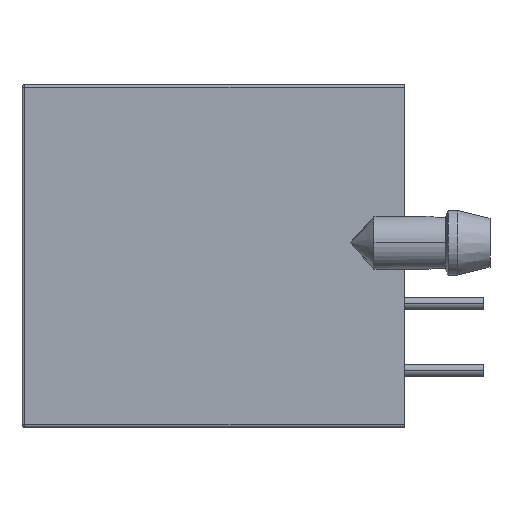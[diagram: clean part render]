
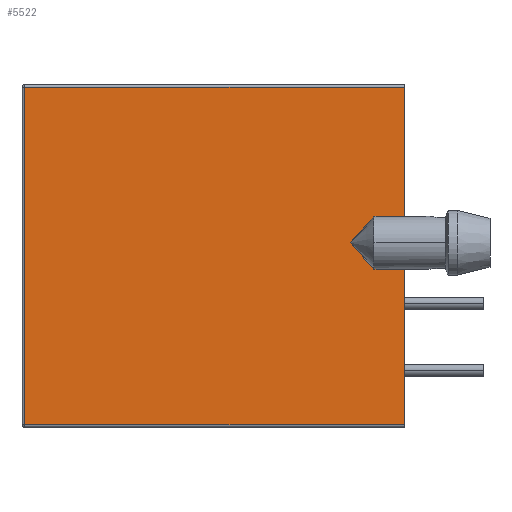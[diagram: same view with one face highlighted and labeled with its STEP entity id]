
A CAD part, left-side view. The second image highlights one B-rep face of the part: STEP entity #5522.
In plain terms, the highlighted planar face has unit normal (-1, 0, 0).
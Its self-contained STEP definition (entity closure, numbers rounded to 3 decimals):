
#1411=DIRECTION('',(0.,1.,0.));
#1412=VECTOR('',#1411,14.4);
#1413=CARTESIAN_POINT('',(-5.,-7.25,6.4));
#1414=LINE('',#1413,#1412);
#1419=DIRECTION('',(0.,0.,-1.));
#1420=VECTOR('',#1419,4.9);
#1421=CARTESIAN_POINT('',(-5.,-7.25,6.4));
#1422=LINE('',#1421,#1420);
#1423=DIRECTION('',(0.,0.669,-0.743));
#1424=VECTOR('',#1423,1.345);
#1425=CARTESIAN_POINT('',(-5.,-6.1,1.5));
#1426=LINE('',#1425,#1424);
#1427=DIRECTION('',(0.,-0.669,-0.743));
#1428=VECTOR('',#1427,1.345);
#1429=CARTESIAN_POINT('',(-5.,-5.2,0.5));
#1430=LINE('',#1429,#1428);
#1431=DIRECTION('',(0.,0.,-1.));
#1432=VECTOR('',#1431,5.9);
#1433=CARTESIAN_POINT('',(-5.,-7.25,-0.5));
#1434=LINE('',#1433,#1432);
#1453=DIRECTION('',(0.,-1.,0.));
#1454=VECTOR('',#1453,1.15);
#1455=CARTESIAN_POINT('',(-5.,-6.1,1.5));
#1456=LINE('',#1455,#1454);
#1491=DIRECTION('',(0.,1.,0.));
#1492=VECTOR('',#1491,1.15);
#1493=CARTESIAN_POINT('',(-5.,-7.25,-0.5));
#1494=LINE('',#1493,#1492);
#1677=DIRECTION('',(0.,-1.,0.));
#1678=VECTOR('',#1677,14.4);
#1679=CARTESIAN_POINT('',(-5.,7.15,-6.4));
#1680=LINE('',#1679,#1678);
#1781=DIRECTION('',(0.,0.,-1.));
#1782=VECTOR('',#1781,12.8);
#1783=CARTESIAN_POINT('',(-5.,7.15,6.4));
#1784=LINE('',#1783,#1782);
#3215=CARTESIAN_POINT('',(-5.,-7.25,-6.4));
#3216=VERTEX_POINT('',#3215);
#3217=CARTESIAN_POINT('',(-5.,-7.25,-0.5));
#3218=VERTEX_POINT('',#3217);
#3221=CARTESIAN_POINT('',(-5.,-7.25,1.5));
#3222=VERTEX_POINT('',#3221);
#3223=CARTESIAN_POINT('',(-5.,-7.25,6.4));
#3224=VERTEX_POINT('',#3223);
#3241=CARTESIAN_POINT('',(-5.,7.15,6.4));
#3242=VERTEX_POINT('',#3241);
#3243=CARTESIAN_POINT('',(-5.,7.15,-6.4));
#3244=VERTEX_POINT('',#3243);
#3247=CARTESIAN_POINT('',(-5.,-6.1,1.5));
#3248=VERTEX_POINT('',#3247);
#3249=CARTESIAN_POINT('',(-5.,-5.2,0.5));
#3250=VERTEX_POINT('',#3249);
#3251=CARTESIAN_POINT('',(-5.,-6.1,-0.5));
#3252=VERTEX_POINT('',#3251);
#5500=CARTESIAN_POINT('',(-5.,7.25,-6.5));
#5501=DIRECTION('',(-1.,0.,0.));
#5502=DIRECTION('',(0.,-1.,0.));
#5503=AXIS2_PLACEMENT_3D('',#5500,#5501,#5502);
#5504=PLANE('',#5503);
#5505=ORIENTED_EDGE('',*,*,#5492,.F.);
#5506=ORIENTED_EDGE('',*,*,#3626,.T.);
#5508=ORIENTED_EDGE('',*,*,#5507,.F.);
#5510=ORIENTED_EDGE('',*,*,#5509,.T.);
#5512=ORIENTED_EDGE('',*,*,#5511,.T.);
#5514=ORIENTED_EDGE('',*,*,#5513,.F.);
#5515=ORIENTED_EDGE('',*,*,#3620,.T.);
#5517=ORIENTED_EDGE('',*,*,#5516,.F.);
#5519=ORIENTED_EDGE('',*,*,#5518,.F.);
#5520=EDGE_LOOP('',(#5505,#5506,#5508,#5510,#5512,#5514,#5515,#5517,#5519));
#5521=FACE_OUTER_BOUND('',#5520,.F.);
#5522=ADVANCED_FACE('',(#5521),#5504,.T.);
#3620=EDGE_CURVE('',#3218,#3216,#1434,.T.);
#3626=EDGE_CURVE('',#3224,#3222,#1422,.T.);
#5492=EDGE_CURVE('',#3224,#3242,#1414,.T.);
#5507=EDGE_CURVE('',#3248,#3222,#1456,.T.);
#5509=EDGE_CURVE('',#3248,#3250,#1426,.T.);
#5511=EDGE_CURVE('',#3250,#3252,#1430,.T.);
#5513=EDGE_CURVE('',#3218,#3252,#1494,.T.);
#5516=EDGE_CURVE('',#3244,#3216,#1680,.T.);
#5518=EDGE_CURVE('',#3242,#3244,#1784,.T.);
